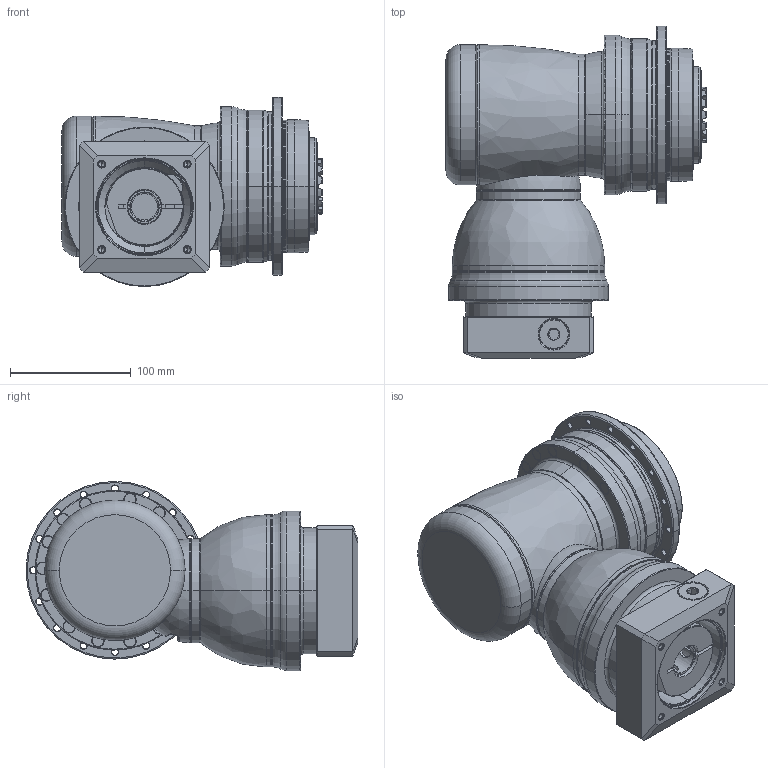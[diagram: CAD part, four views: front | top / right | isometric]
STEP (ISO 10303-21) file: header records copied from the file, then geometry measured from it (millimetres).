
FILE_DESCRIPTION((''),'2;1');
FILE_NAME('APCK110_2ST_24-P0409510201_ASM','2018-05-08T',('d01226'),(''),'PRO/ENGINEER BY PARAMETRIC TECHNOLOGY CORPORATION, 2008410','PRO/ENGINEER BY PARAMETRIC TECHNOLOGY CORPORATION, 2008410','');
FILE_SCHEMA(('CONFIG_CONTROL_DESIGN'));
Length unit declared in the file: millimetre
Products named in the file (13): P1008400002; P1802410011; P0278401003; P03594C0103; P1211400001; P1315400001; P1007401001; P1318410101; P0409510201; P0503500010; P0129451001; 21711418017; APCK110_2ST_24-P0409510201_ASM
Assembly tree (12 placements, depth 2):
  APCK110_2ST_24-P0409510201_ASM
    P1008400002
    P1802410011
    P0278401003
    P03594C0103
    P1211400001
    P1315400001
    P1007401001
    P1318410101
    P0409510201
    P0503500010
    P0129451001
    21711418017
Bounding box: 215.2 x 274.5 x 156.5 mm (x, y, z)
Volume: 3627460.6 mm3; surface area: 426913.3 mm2
Topology: 13 solids, 23 shells, 780 faces, 1842 edges, 1140 vertices
Faces by surface type: cylinder 272, cone 205, plane 161, torus 110, bspline 30, sphere 2
Entity records: 25854 total; most frequent: CARTESIAN_POINT 7300, DIRECTION 4190, ORIENTED_EDGE 3614, AXIS2_PLACEMENT_3D 1840, EDGE_CURVE 1828, VERTEX_POINT 1140, CIRCLE 1055, EDGE_LOOP 892
